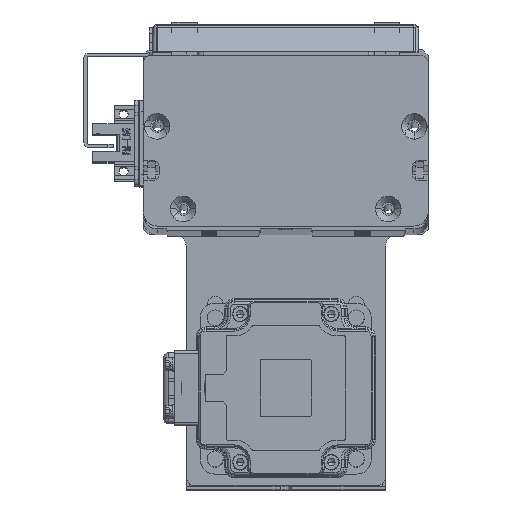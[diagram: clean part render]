
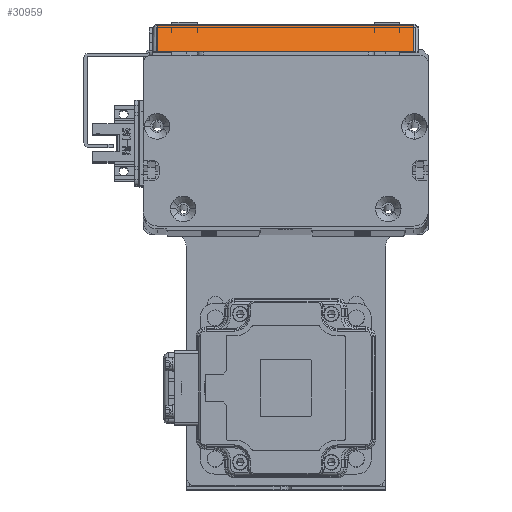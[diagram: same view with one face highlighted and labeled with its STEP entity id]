
A CAD part, top view. The second image highlights one B-rep face of the part: STEP entity #30959.
In plain terms, the highlighted planar face has unit normal (0, 0.707, 0.707) as drawn and (-0.707, 0, -0.707) by its records, which use the part's own axes.
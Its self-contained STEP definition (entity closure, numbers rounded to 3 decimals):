
#4588 = CARTESIAN_POINT ( 'NONE',  ( -57.298, 91.7, -5.102 ) ) ;
#5365 = EDGE_CURVE ( 'NONE', #71483, #71126, #47212, .T. ) ;
#7568 = VERTEX_POINT ( 'NONE', #4588 ) ;
#8772 = ORIENTED_EDGE ( 'NONE', *, *, #70351, .T. ) ;
#8997 = CARTESIAN_POINT ( 'NONE',  ( -66.5, 91.7, 4.1 ) ) ;
#10129 = DIRECTION ( 'NONE',  ( 0., -1., 0. ) ) ;
#15720 = CARTESIAN_POINT ( 'NONE',  ( -68., 91.7, 5.6 ) ) ;
#17769 = PLANE ( 'NONE',  #39356 ) ;
#18019 = DIRECTION ( 'NONE',  ( -0.707, 0., 0.707 ) ) ;
#20944 = LINE ( 'NONE', #21506, #71295 ) ;
#21384 = VECTOR ( 'NONE', #26653, 1000. ) ;
#21506 = CARTESIAN_POINT ( 'NONE',  ( -57.298, 93.4, -5.102 ) ) ;
#22662 = DIRECTION ( 'NONE',  ( -0.707, 0., -0.707 ) ) ;
#23125 = EDGE_CURVE ( 'NONE', #7568, #71483, #20944, .T. ) ;
#23310 = ORIENTED_EDGE ( 'NONE', *, *, #5365, .T. ) ;
#26653 = DIRECTION ( 'NONE',  ( 0.707, 0., -0.707 ) ) ;
#30959 = ADVANCED_FACE ( 'NONE', ( #36968 ), #17769, .T. ) ;
#31516 = VECTOR ( 'NONE', #18019, 1000. ) ;
#32392 = VECTOR ( 'NONE', #69770, 1000. ) ;
#32951 = EDGE_LOOP ( 'NONE', ( #23310, #56282, #8772, #42245 ) ) ;
#34317 = CARTESIAN_POINT ( 'NONE',  ( -68., 1.7, 5.6 ) ) ;
#36183 = EDGE_CURVE ( 'NONE', #71126, #64623, #58507, .T. ) ;
#36968 = FACE_OUTER_BOUND ( 'NONE', #32951, .T. ) ;
#39356 = AXIS2_PLACEMENT_3D ( 'NONE', #45753, #22662, #56692 ) ;
#42245 = ORIENTED_EDGE ( 'NONE', *, *, #23125, .T. ) ;
#45753 = CARTESIAN_POINT ( 'NONE',  ( -68., 93.4, 5.6 ) ) ;
#47212 = LINE ( 'NONE', #34317, #31516 ) ;
#47514 = CARTESIAN_POINT ( 'NONE',  ( -66.5, 93.4, 4.1 ) ) ;
#53623 = LINE ( 'NONE', #15720, #21384 ) ;
#56066 = CARTESIAN_POINT ( 'NONE',  ( -66.5, 1.7, 4.1 ) ) ;
#56282 = ORIENTED_EDGE ( 'NONE', *, *, #36183, .T. ) ;
#56692 = DIRECTION ( 'NONE',  ( -0.707, 0., 0.707 ) ) ;
#58507 = LINE ( 'NONE', #47514, #32392 ) ;
#64623 = VERTEX_POINT ( 'NONE', #8997 ) ;
#69770 = DIRECTION ( 'NONE',  ( 0., 1., 0. ) ) ;
#70351 = EDGE_CURVE ( 'NONE', #64623, #7568, #53623, .T. ) ;
#70527 = CARTESIAN_POINT ( 'NONE',  ( -57.298, 1.7, -5.102 ) ) ;
#71126 = VERTEX_POINT ( 'NONE', #56066 ) ;
#71295 = VECTOR ( 'NONE', #10129, 1000. ) ;
#71483 = VERTEX_POINT ( 'NONE', #70527 ) ;
